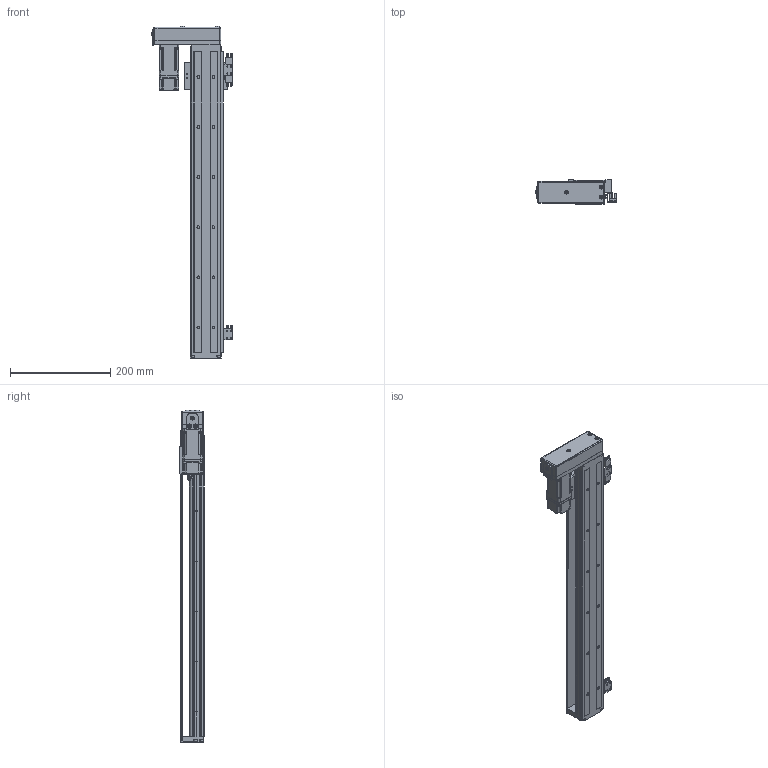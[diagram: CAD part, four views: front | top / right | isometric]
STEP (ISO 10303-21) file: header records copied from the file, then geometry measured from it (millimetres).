
FILE_DESCRIPTION (( 'STEP AP214' ), '1' );
FILE_NAME ('SFKK60-600A1-HR0C.STEP', '2022-05-03T12:50:29', ( '微软用户' ), ( '微软中国' ), 'SwSTEP 2.0', 'SolidWorks 2018', '' );
FILE_SCHEMA (( 'AUTOMOTIVE_DESIGN' ));
Length unit declared in the file: millimetre
Products named in the file (12): hexagon socket countersunk head screws gb_GB_FASTENER_SCREWS_HSCHS M3X8-N; 开关固定座：KK-674S2-F; 带盖挡光片：KK-60-S2-D1; SFKK-60-CU_600; 极限轨道与开关固定座组合_600; SFKK60-A1-C; SX674嫖萇羲壽; SFKK60-600A1-HR0C; SFKK60-LR 憤癹寢耋_600; 蚐郲; SFKK60-H0_600; SFKK60-H0-P10侂狟100W耜蚾
Assembly tree (17 placements, depth 3):
  SFKK60-600A1-HR0C
    SFKK60-H0_600
    SFKK60-A1-C
    蚐郲
    极限轨道与开关固定座组合_600
      SFKK60-LR 憤癹寢耋_600
      开关固定座：KK-674S2-F  x2
    SX674嫖萇羲壽  x3
    带盖挡光片：KK-60-S2-D1
    SFKK-60-CU_600
    hexagon socket countersunk head screws gb_GB_FASTENER_SCREWS_HSCHS M3X8-N  x4
    SFKK60-H0-P10侂狟100W耜蚾
Bounding box: 162.2 x 48 x 662.7 mm (x, y, z)
Volume: 738405.1 mm3; surface area: 412208.3 mm2
Topology: 40 solids, 69 shells, 4312 faces, 10806 edges, 6680 vertices
Faces by surface type: cylinder 1687, plane 1502, cone 915, torus 91, bspline 91, sphere 26
Entity records: 170078 total; most frequent: CARTESIAN_POINT 30353, DIRECTION 21512, ORIENTED_EDGE 20296, EDGE_CURVE 10210, AXIS2_PLACEMENT_3D 7998, VERTEX_POINT 6383, VECTOR 5516, LINE 5516
